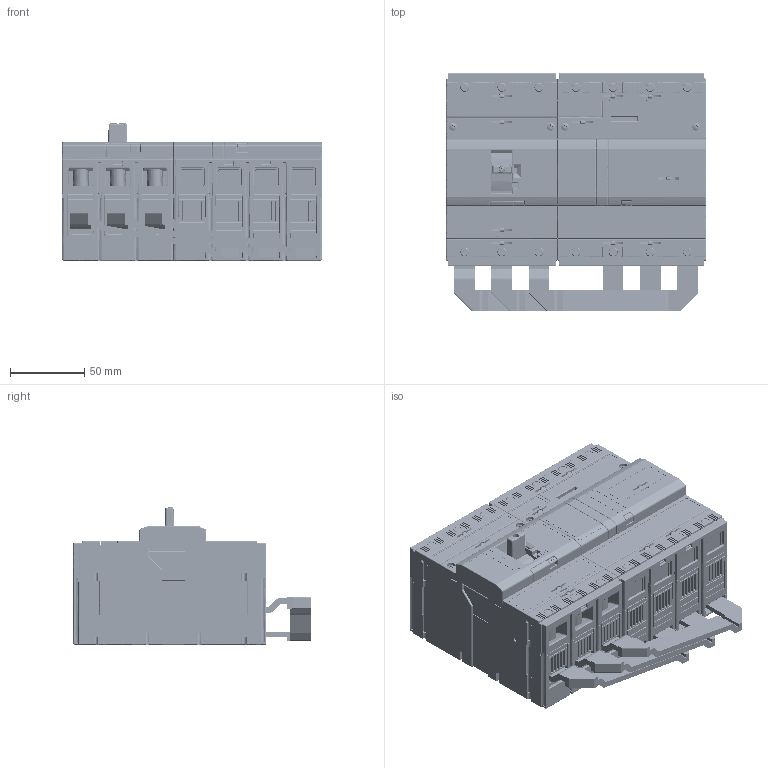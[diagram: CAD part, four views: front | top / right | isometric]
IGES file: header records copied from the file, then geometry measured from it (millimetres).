
Start section: SolidWorks IGES file using analytic representation for surfaces
Global section: file name: U:\14_RD\05_Technical_office\04_Office\Hrdinova\3D modely - IGES\Modeion\BC160NT305__RCD-BC3.IGS; native system: SolidWorks 2011; preprocessor: SolidWorks 2011; author: adhrja3; date: 170615.124024; units: millimetre
Bounding box: 175 x 160 x 92.5 mm (x, y, z)
Surface area: 301724.4 mm2 (no closed solid volume)
Topology: 0 solids, 0 shells, 10188 faces, 81621 edges, 81520 vertices
Faces by surface type: bspline 6537, revolution 3651
